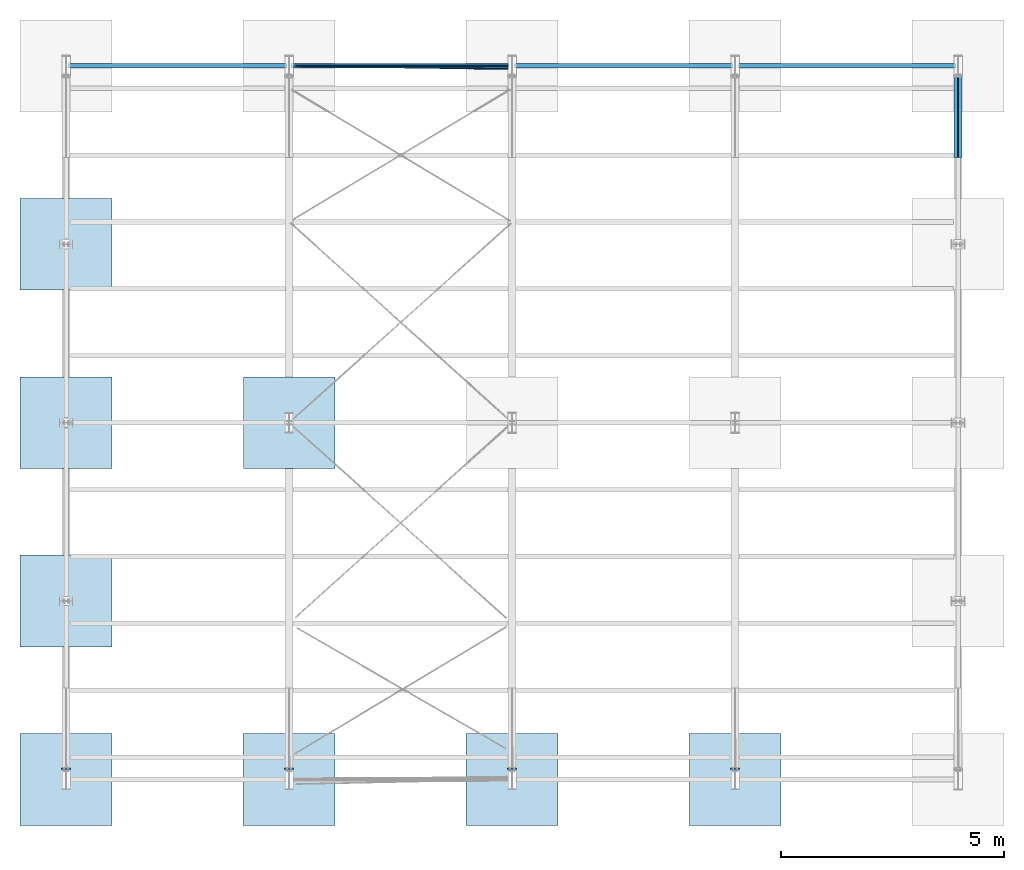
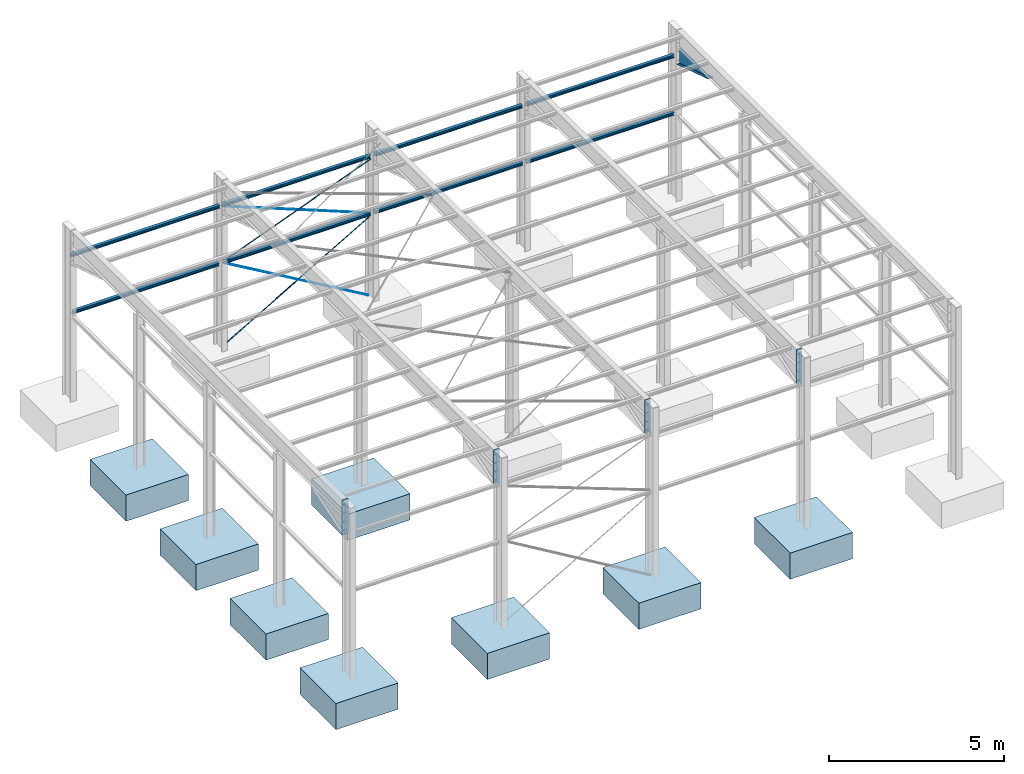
# Not in any storey, part 5 of 51: 8 beams, 8 slabs, 5 members, 4 plates, 33 openings.
"""IFC4 model written with IfcOpenShell, lengths in feet."""

from ifc_helpers import new_model, entity, si_unit, converted_unit, direction, frame, origin, origin_with_axes, origin_2d, origin_2d_with_axis, place, context, subcontext, project, spatial, polyline, indexed_curve, circle, i_section, outline, extrude, clip, halfspace, material, layer, layer_set, type_object, element, save


model = new_model("IFC4")

# Units and contexts
model_context = context("Model", 3, precision=0.0001, world=origin(), true_north=direction((6.123233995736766e-17, 1.0)))
body_context = subcontext(model_context, "Body", "Model", "MODEL_VIEW")
ifc_project = project(units=[converted_unit("LENGTHUNIT", "FOOT", entity("IfcLengthMeasure", 0.3048), si_unit("LENGTHUNIT", "METRE"), dimensions=[1, 0, 0, 0, 0, 0, 0]), converted_unit("AREAUNIT", "SQUARE INCH", entity("IfcAreaMeasure", 0.0006451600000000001), si_unit("AREAUNIT", "SQUARE_METRE"), dimensions=[2, 0, 0, 0, 0, 0, 0]), converted_unit("PLANEANGLEUNIT", "DEGREE", entity("IfcPlaneAngleMeasure", 0.017453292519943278), si_unit("PLANEANGLEUNIT", "RADIAN"), dimensions=[0, 0, 0, 0, 0, 0, 0]), si_unit("VOLUMEUNIT", "CUBIC_METRE")], contexts=[model_context])

# Site
site_placement = place(None, origin())
site = spatial("IfcSite", under=ifc_project, at=site_placement, Name="Default", CompositionType="ELEMENT")

# Beams
ifc_material_1 = material(Name="Steel ASTM A992", Category="Metal")
beam_type = type_object("IfcBeamType", Name="W Shapes:W4X13", PredefinedType="BEAM")
beam_1_placement = place(site_placement, frame((76.70386799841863, 57.94845552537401, 9.669186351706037), z_axis=(1.0, 0.0, 0.0), x_axis=(0.0, 1.0, 0.0)))
element("IfcBeam", 1, at=beam_1_placement, inside=site, type_object=beam_type, material=ifc_material_1, Name="W Shapes:W4X13", ObjectType="W4X13", context=model_context, shape_type="SweptSolid", body=[
    extrude(i_section(OverallWidth=0.3383333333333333, OverallDepth=0.3466666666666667, WebThickness=0.023333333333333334, FlangeThickness=0.028749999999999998, FilletRadius=0.020833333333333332, at=origin_2d()), origin(), (0.0, 0.0, -1.0), 16.0),
])
beam_2_placement = place(site_placement, frame((60.320501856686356, 57.94845552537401, 9.669186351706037), z_axis=(1.0, 0.0, 0.0), x_axis=(0.0, 1.0, 0.0)))
element("IfcBeam", 2, at=beam_2_placement, inside=site, type_object=beam_type, material=ifc_material_1, Name="W Shapes:W4X13", ObjectType="W4X13", context=model_context, shape_type="SweptSolid", body=[
    extrude(i_section(OverallWidth=0.3383333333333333, OverallDepth=0.3466666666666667, WebThickness=0.023333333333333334, FlangeThickness=0.028749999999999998, FilletRadius=0.020833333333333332, at=origin_2d()), origin(), (0.0, 0.0, -1.0), 16.083333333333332),
])
beam_3_placement = place(site_placement, frame((43.85380238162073, 57.94845552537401, 9.669186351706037), z_axis=(1.0, 0.0, 0.0), x_axis=(0.0, 1.0, 0.0)))
element("IfcBeam", 3, at=beam_3_placement, inside=site, type_object=beam_type, material=ifc_material_1, Name="W Shapes:W4X13", ObjectType="W4X13", context=model_context, shape_type="SweptSolid", body=[
    extrude(i_section(OverallWidth=0.3383333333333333, OverallDepth=0.3466666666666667, WebThickness=0.023333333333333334, FlangeThickness=0.028749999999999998, FilletRadius=0.020833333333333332, at=origin_2d()), origin(), (0.0, 0.0, -1.0), 15.9375),
])
beam_4_placement = place(site_placement, frame((27.40793623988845, 57.94845552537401, 9.669186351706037), z_axis=(1.0, 0.0, 0.0), x_axis=(0.0, 1.0, 0.0)))
element("IfcBeam", 4, at=beam_4_placement, inside=site, type_object=beam_type, material=ifc_material_1, Name="W Shapes:W4X13", ObjectType="W4X13", context=model_context, shape_type="SweptSolid", body=[
    extrude(i_section(OverallWidth=0.3383333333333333, OverallDepth=0.3466666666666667, WebThickness=0.023333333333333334, FlangeThickness=0.028749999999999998, FilletRadius=0.020833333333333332, at=origin_2d()), origin(), (0.0, 0.0, -1.0), 15.854166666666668),
])
beam_5_placement = place(site_placement, frame((76.7144583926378, 57.94845552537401, 16.261706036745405), z_axis=(1.0, 0.0, 0.0), x_axis=(0.0, 1.0, 0.0)))
element("IfcBeam", 5, at=beam_5_placement, inside=site, type_object=beam_type, material=ifc_material_1, Name="W Shapes:W4X13", ObjectType="W4X13", context=model_context, shape_type="SweptSolid", body=[
    extrude(i_section(OverallWidth=0.3383333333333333, OverallDepth=0.3466666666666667, WebThickness=0.023333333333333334, FlangeThickness=0.028749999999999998, FilletRadius=0.020833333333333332, at=origin_2d()), origin(), (0.0, 0.0, -1.0), 16.03286390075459),
])
beam_6_placement = place(site_placement, frame((60.28941648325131, 57.94845552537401, 16.261706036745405), z_axis=(1.0, 0.0, 0.0), x_axis=(0.0, 1.0, 0.0)))
element("IfcBeam", 6, at=beam_6_placement, inside=site, type_object=beam_type, material=ifc_material_1, Name="W Shapes:W4X13", ObjectType="W4X13", context=model_context, shape_type="SweptSolid", body=[
    extrude(i_section(OverallWidth=0.3383333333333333, OverallDepth=0.3466666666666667, WebThickness=0.023333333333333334, FlangeThickness=0.028749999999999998, FilletRadius=0.020833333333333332, at=origin_2d()), origin(), (0.0, 0.0, -1.0), 15.969487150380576),
])
beam_7_placement = place(site_placement, frame((43.825019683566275, 57.94845552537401, 16.261706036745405), z_axis=(1.0, 0.0, 0.0), x_axis=(0.0, 1.0, 0.0)))
element("IfcBeam", 7, at=beam_7_placement, inside=site, type_object=beam_type, material=ifc_material_1, Name="W Shapes:W4X13", ObjectType="W4X13", context=model_context, shape_type="SweptSolid", body=[
    extrude(i_section(OverallWidth=0.3383333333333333, OverallDepth=0.3466666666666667, WebThickness=0.023333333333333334, FlangeThickness=0.028749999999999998, FilletRadius=0.020833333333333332, at=origin_2d()), origin(), (0.0, 0.0, -1.0), 16.01612478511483),
])
beam_8_placement = place(site_placement, frame((27.494150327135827, 57.94845552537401, 16.261706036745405), z_axis=(1.0, 0.0, 0.0), x_axis=(0.0, 1.0, 0.0)))
element("IfcBeam", 8, at=beam_8_placement, inside=site, type_object=beam_type, material=ifc_material_1, Name="W Shapes:W4X13", ObjectType="W4X13", context=model_context, shape_type="SweptSolid", body=[
    extrude(i_section(OverallWidth=0.3383333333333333, OverallDepth=0.3466666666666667, WebThickness=0.023333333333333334, FlangeThickness=0.028749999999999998, FilletRadius=0.020833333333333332, at=origin_2d()), origin(), (0.0, 0.0, -1.0), 16.08591986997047),
])

# Members
ifc_material_2 = material(Name="Steel ASTM A36", Category="Metal")
member_type_1 = type_object("IfcMemberType", Name="Round Bars:RB 1", PredefinedType="MEMBER", material=ifc_material_2)
member_1_placement = place(site_placement, frame((28.282674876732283, 57.94845552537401, 0.3193730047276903), z_axis=(-0.86395085, 0.0, -0.50357614), x_axis=(0.0, -1.0, 0.0)))
element("IfcMember", 9, at=member_1_placement, inside=site, type_object=member_type_1, material=ifc_material_2, Name="Round Bars:RB 1", ObjectType="RB 1", context=model_context, shape_type="SweptSolid", body=[
    extrude(circle(Radius=0.041666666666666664, at=origin_2d()), origin(), (0.0, 0.0, -1.0), 17.916666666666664),
])
member_type_2 = type_object("IfcMemberType", Name="Round Bars:RB 1", PredefinedType="MEMBER", material=ifc_material_2)
member_2_placement = place(site_placement, frame((43.61482597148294, 57.96141133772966, 0.37911119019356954), z_axis=(0.862578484, 0.0, -0.505923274), x_axis=(0.0, 1.0, 0.0)))
element("IfcMember", 10, at=member_2_placement, inside=site, type_object=member_type_2, material=ifc_material_2, Name="Round Bars:RB 1", ObjectType="RB 1", context=model_context, shape_type="SweptSolid", body=[
    extrude(circle(Radius=0.041666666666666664, at=origin_2d()), origin(), (0.0, 0.0, -1.0), 17.829152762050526),
])
member_type_3 = type_object("IfcMemberType", Name="Round Bars:RB 1", PredefinedType="MEMBER", material=ifc_material_2)
member_3_placement = place(site_placement, frame((43.53051832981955, 57.94845552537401, 9.84251968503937), z_axis=(-0.928823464, 0.0, 0.370522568), x_axis=(0.0, -1.0, 0.0)))
element("IfcMember", 11, at=member_3_placement, inside=site, type_object=member_type_3, material=ifc_material_2, Name="Round Bars:RB 1", ObjectType="RB 1", context=model_context, shape_type="SweptSolid", body=[
    extrude(circle(Radius=0.041666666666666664, at=origin_2d()), origin(), (0.0, 0.0, 1.0), 16.677487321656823),
])
member_type_4 = type_object("IfcMemberType", Name="Round Bars:RB 1", PredefinedType="MEMBER", material=ifc_material_2)
member_4_placement = place(site_placement, frame((28.18565454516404, 57.94845552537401, 9.84251968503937), z_axis=(0.928837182, -0.013322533, 0.370248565), x_axis=(0.014341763, 0.999897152, 0.0)))
element("IfcMember", 12, at=member_4_placement, inside=site, type_object=member_type_4, material=ifc_material_2, Name="Round Bars:RB 1", ObjectType="RB 1", context=model_context, shape_type="SweptSolid", body=[
    extrude(circle(Radius=0.041666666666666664, at=origin_2d()), origin(), (0.0, 0.0, 1.0), 16.76105546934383),
])

# Member, opening
member_5_placement = place(site_placement, frame((76.87053466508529, 60.40785938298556, 15.74704584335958), z_axis=(0.0, 0.952577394, -0.304296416), x_axis=(-1.0, 0.0, 0.0)))
member_5 = element("IfcMember", 13, at=member_5_placement, inside=site, Name="Haunch", ObjectType="Haunch", context=model_context, shape_type="Clipping", body=[
    clip(clip(clip(extrude(i_section(OverallWidth=0.5841666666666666, OverallDepth=1.9666666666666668, WebThickness=0.032916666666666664, FlangeThickness=0.042083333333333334, FilletRadius=0.042083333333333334, at=origin_2d()), origin(), (0.0, 0.0, -1.0), 19.390601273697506), halfspace(frame((76.87053466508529, -16.00192954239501, 1.6561795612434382), z_axis=(0.0, -0.304296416, -0.952577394), x_axis=(-1.0, 0.0, 0.0)), True)), halfspace(frame((76.87053466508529, -16.50405684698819, -58.14302795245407), z_axis=(0.0, -0.952577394, 0.304296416), x_axis=(1.0, 0.0, 0.0)), True)), halfspace(frame((76.87053466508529, -17.79895362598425, -3.96927123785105), z_axis=(0.0, 0.304296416, 0.952577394), x_axis=(1.0, 0.0, 0.0)), True)),
])
opening_1_placement = place(member_5_placement, frame((0.6204954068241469, -0.9833333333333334, -3.141437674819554), z_axis=(-1.0, 0.0, 0.0), x_axis=(0.0, 0.304296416, 0.952577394)))
element("IfcOpeningElement", 14, at=opening_1_placement, cuts=member_5, ObjectType="Opening", context=model_context, shape_type="SweptSolid", body=[
    extrude(outline(polyline([(3.2808398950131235e-06, 1.9521030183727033), (-0.0625079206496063, 1.9521030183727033), (3.2808398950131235e-06, 1.889591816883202), (3.2808398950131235e-06, 1.9521030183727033)])), origin(), (0.0, 0.0, 1.0), 1.2409908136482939),
])

# Slabs
ifc_material_3 = material(Name="Concrete, Cast-in-Place gray", Category="Concrete")
slab_type = type_object("IfcSlabType", Name="Pile Cap-Rectangular:81\" x 81\" x 36\"", PredefinedType="BASESLAB", material=ifc_material_3)
slab_1_placement = place(site_placement, origin())
element("IfcSlab", 15, at=slab_1_placement, inside=site, type_object=slab_type, Name="Pile Cap-Rectangular:81\" x 81\" x 36\"", ObjectType="Pile Cap-Rectangular:81\" x 81\" x 36\"", PredefinedType="BASESLAB", context=body_context, shape_type="SweptSolid", body=[
    extrude(outline(indexed_curve([(-3.375, -3.375), (3.375, -3.375), (3.375, 3.374999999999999), (-3.375, 3.374999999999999), (-3.375, -3.375)], self_intersect=False)), frame((60.4663351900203, 5.455017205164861, -3.0), z_axis=(0.0, 0.0, 1.0), x_axis=(-1.0, 0.0, 0.0)), (0.0, 0.0, 1.0), 3.0),
])
slab_2_placement = place(site_placement, origin())
element("IfcSlab", 16, at=slab_2_placement, inside=site, type_object=slab_type, Name="Pile Cap-Rectangular:81\" x 81\" x 36\"", ObjectType="Pile Cap-Rectangular:81\" x 81\" x 36\"", PredefinedType="BASESLAB", context=body_context, shape_type="SweptSolid", body=[
    extrude(outline(indexed_curve([(-3.375, -3.375), (3.375, -3.375), (3.375, 3.374999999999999), (-3.375, 3.374999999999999), (-3.375, -3.375)], self_intersect=False)), frame((44.062135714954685, 5.455017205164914, -3.0), z_axis=(0.0, 0.0, 1.0), x_axis=(-1.0, 0.0, 0.0)), (0.0, 0.0, 1.0), 3.0),
])
slab_3_placement = place(site_placement, origin())
element("IfcSlab", 17, at=slab_3_placement, inside=site, type_object=slab_type, Name="Pile Cap-Rectangular:81\" x 81\" x 36\"", ObjectType="Pile Cap-Rectangular:81\" x 81\" x 36\"", PredefinedType="BASESLAB", context=body_context, shape_type="SweptSolid", body=[
    extrude(outline(indexed_curve([(-3.375, -3.375), (3.375, -3.375), (3.375, 3.374999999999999), (-3.375, 3.374999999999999), (-3.375, -3.375)], self_intersect=False)), frame((27.657936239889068, 5.4550172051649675, -3.0), z_axis=(0.0, 0.0, 1.0), x_axis=(-1.0, 0.0, 0.0)), (0.0, 0.0, 1.0), 3.0),
])
slab_4_placement = place(site_placement, origin())
element("IfcSlab", 18, at=slab_4_placement, inside=site, type_object=slab_type, Name="Pile Cap-Rectangular:81\" x 81\" x 36\"", ObjectType="Pile Cap-Rectangular:81\" x 81\" x 36\"", PredefinedType="BASESLAB", context=body_context, shape_type="SweptSolid", body=[
    extrude(outline(indexed_curve([(-3.375, -3.375), (3.375, -3.375), (3.375, 3.374999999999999), (-3.375, 3.374999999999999), (-3.375, -3.375)], self_intersect=False)), frame((11.25373676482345, 5.455017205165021, -3.0), z_axis=(0.0, 0.0, 1.0), x_axis=(-1.0, 0.0, 0.0)), (0.0, 0.0, 1.0), 3.0),
])
slab_5_placement = place(site_placement, origin())
element("IfcSlab", 19, at=slab_5_placement, inside=site, type_object=slab_type, Name="Pile Cap-Rectangular:81\" x 81\" x 36\"", ObjectType="Pile Cap-Rectangular:81\" x 81\" x 36\"", PredefinedType="BASESLAB", context=body_context, shape_type="SweptSolid", body=[
    extrude(outline(indexed_curve([(-3.375, -3.375), (3.375, -3.375), (3.375, 3.375), (-3.375, 3.375), (-3.375, -3.375)], self_intersect=False)), frame((11.253736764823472, 18.578376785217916, -3.0), z_axis=(0.0, 0.0, 1.0), x_axis=(-1.0, 0.0, 0.0)), (0.0, 0.0, 1.0), 3.0),
])
slab_6_placement = place(site_placement, origin())
element("IfcSlab", 20, at=slab_6_placement, inside=site, type_object=slab_type, Name="Pile Cap-Rectangular:81\" x 81\" x 36\"", ObjectType="Pile Cap-Rectangular:81\" x 81\" x 36\"", PredefinedType="BASESLAB", context=body_context, shape_type="SweptSolid", body=[
    extrude(outline(indexed_curve([(-3.375, -3.375), (3.375, -3.375), (3.375, 3.375), (-3.375, 3.375), (-3.375, -3.375)], self_intersect=False)), frame((11.253736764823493, 31.701736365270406, -3.0), z_axis=(0.0, 0.0, 1.0), x_axis=(-1.0, 0.0, 0.0)), (0.0, 0.0, 1.0), 3.0),
])
slab_7_placement = place(site_placement, origin())
element("IfcSlab", 21, at=slab_7_placement, inside=site, type_object=slab_type, Name="Pile Cap-Rectangular:81\" x 81\" x 36\"", ObjectType="Pile Cap-Rectangular:81\" x 81\" x 36\"", PredefinedType="BASESLAB", context=body_context, shape_type="SweptSolid", body=[
    extrude(outline(indexed_curve([(-3.375, -3.375), (3.375, -3.375), (3.375, 3.375), (-3.375, 3.375), (-3.375, -3.375)], self_intersect=False)), frame((11.253736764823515, 44.8250959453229, -3.0), z_axis=(0.0, 0.0, 1.0), x_axis=(-1.0, 0.0, 0.0)), (0.0, 0.0, 1.0), 3.0),
])
slab_8_placement = place(site_placement, origin())
element("IfcSlab", 22, at=slab_8_placement, inside=site, type_object=slab_type, Name="Pile Cap-Rectangular:81\" x 81\" x 36\"", ObjectType="Pile Cap-Rectangular:81\" x 81\" x 36\"", PredefinedType="BASESLAB", context=body_context, shape_type="SweptSolid", body=[
    extrude(outline(indexed_curve([(-3.375, -3.375), (3.375, -3.375), (3.375, 3.375), (-3.375, 3.375), (-3.375, -3.375)], self_intersect=False)), frame((27.673356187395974, 31.701736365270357, -3.0), z_axis=(0.0, 0.0, 1.0), x_axis=(-1.0, 0.0, 0.0)), (0.0, 0.0, 1.0), 3.0),
])

# Plate, openings
ifc_material_4 = material(Name="Dachdeckung - Blechdach")
ifc_layer = layer(ifc_material_4, 20.0)
ifc_layer_set = layer_set([ifc_layer], Name="Dachdeckung - Blechdach")
plate_1_placement = place(site_placement, frame((11.562224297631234, 6.28730066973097, 19.668635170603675), z_axis=(0.0, -1.0, 0.0), x_axis=(-1.0, 0.0, 0.0)))
plate_1 = element("IfcPlate", 23, at=plate_1_placement, inside=site, material=ifc_layer_set, Name="Endplate", ObjectType="Endplate", context=model_context, shape_type="SweptSolid", body=[
    extrude(outline(polyline([(0.0, 0.0), (0.6169750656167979, 0.0), (0.6169750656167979, 3.918766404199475), (0.0, 3.918766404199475), (0.0, 0.0)])), origin_with_axes(), (0.0, 0.0, 1.0), 0.06561679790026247),
])
opening_2_placement = place(plate_1_placement, frame((0.4543208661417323, 2.4606299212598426, 0.06725721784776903), z_axis=(0.0, 0.0, -1.0), x_axis=(1.0, 0.0, 0.0)))
element("IfcOpeningElement", 24, at=opening_2_placement, cuts=plate_1, ObjectType="Opening", context=model_context, shape_type="SweptSolid", body=[
    extrude(circle(Radius=0.03385744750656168, at=origin_2d_with_axis()), origin(), (0.0, 0.0, 1.0), 0.0688976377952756),
])
opening_3_placement = place(plate_1_placement, frame((0.4543208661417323, 3.444881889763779, 0.06725721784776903), z_axis=(0.0, 0.0, -1.0), x_axis=(1.0, 0.0, 0.0)))
element("IfcOpeningElement", 25, at=opening_3_placement, cuts=plate_1, ObjectType="Opening", context=model_context, shape_type="SweptSolid", body=[
    extrude(circle(Radius=0.03385744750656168, at=origin_2d_with_axis()), origin(), (0.0, 0.0, 1.0), 0.0688976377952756),
])
opening_4_placement = place(plate_1_placement, frame((0.4543208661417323, 1.4763779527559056, 0.06725721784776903), z_axis=(0.0, 0.0, -1.0), x_axis=(1.0, 0.0, 0.0)))
element("IfcOpeningElement", 26, at=opening_4_placement, cuts=plate_1, ObjectType="Opening", context=model_context, shape_type="SweptSolid", body=[
    extrude(circle(Radius=0.03385744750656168, at=origin_2d_with_axis()), origin(), (0.0, 0.0, 1.0), 0.0688976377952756),
])
opening_5_placement = place(plate_1_placement, frame((0.1626541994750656, 2.4606299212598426, 0.06725721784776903), z_axis=(0.0, 0.0, -1.0), x_axis=(1.0, 0.0, 0.0)))
element("IfcOpeningElement", 27, at=opening_5_placement, cuts=plate_1, ObjectType="Opening", context=model_context, shape_type="SweptSolid", body=[
    extrude(circle(Radius=0.03385744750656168, at=origin_2d_with_axis()), origin(), (0.0, 0.0, 1.0), 0.0688976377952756),
])
opening_6_placement = place(plate_1_placement, frame((0.4543208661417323, 0.49212598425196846, 0.06725721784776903), z_axis=(0.0, 0.0, -1.0), x_axis=(1.0, 0.0, 0.0)))
element("IfcOpeningElement", 28, at=opening_6_placement, cuts=plate_1, ObjectType="Opening", context=model_context, shape_type="SweptSolid", body=[
    extrude(circle(Radius=0.03385744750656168, at=origin_2d_with_axis()), origin(), (0.0, 0.0, 1.0), 0.0688976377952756),
])
opening_7_placement = place(plate_1_placement, frame((0.1626541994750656, 3.444881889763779, 0.06725721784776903), z_axis=(0.0, 0.0, -1.0), x_axis=(1.0, 0.0, 0.0)))
element("IfcOpeningElement", 29, at=opening_7_placement, cuts=plate_1, ObjectType="Opening", context=model_context, shape_type="SweptSolid", body=[
    extrude(circle(Radius=0.03385744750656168, at=origin_2d_with_axis()), origin(), (0.0, 0.0, 1.0), 0.0688976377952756),
])
opening_8_placement = place(plate_1_placement, frame((0.1626541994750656, 1.4763779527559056, 0.06725721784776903), z_axis=(0.0, 0.0, -1.0), x_axis=(1.0, 0.0, 0.0)))
element("IfcOpeningElement", 30, at=opening_8_placement, cuts=plate_1, ObjectType="Opening", context=model_context, shape_type="SweptSolid", body=[
    extrude(circle(Radius=0.03385744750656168, at=origin_2d_with_axis()), origin(), (0.0, 0.0, 1.0), 0.0688976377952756),
])
opening_9_placement = place(plate_1_placement, frame((0.1626541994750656, 0.49212598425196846, 0.06725721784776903), z_axis=(0.0, 0.0, -1.0), x_axis=(1.0, 0.0, 0.0)))
element("IfcOpeningElement", 31, at=opening_9_placement, cuts=plate_1, ObjectType="Opening", context=model_context, shape_type="SweptSolid", body=[
    extrude(circle(Radius=0.03385744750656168, at=origin_2d_with_axis()), origin(), (0.0, 0.0, 1.0), 0.0688976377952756),
])

plate_2_placement = place(site_placement, frame((27.96642377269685, 6.28730066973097, 19.668635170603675), z_axis=(0.0, -1.0, 0.0), x_axis=(-1.0, 0.0, 0.0)))
plate_2 = element("IfcPlate", 32, at=plate_2_placement, inside=site, material=ifc_layer_set, Name="Endplate", ObjectType="Endplate", context=model_context, shape_type="SweptSolid", body=[
    extrude(outline(polyline([(0.0, 0.0), (0.6169750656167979, 0.0), (0.6169750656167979, 3.918766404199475), (0.0, 3.918766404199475), (0.0, 0.0)])), origin_with_axes(), (0.0, 0.0, 1.0), 0.06561679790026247),
])
opening_10_placement = place(plate_2_placement, frame((0.1626541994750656, 2.4606299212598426, 0.06725721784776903), z_axis=(0.0, 0.0, -1.0), x_axis=(1.0, 0.0, 0.0)))
element("IfcOpeningElement", 33, at=opening_10_placement, cuts=plate_2, ObjectType="Opening", context=model_context, shape_type="SweptSolid", body=[
    extrude(circle(Radius=0.03385744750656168, at=origin_2d_with_axis()), origin(), (0.0, 0.0, 1.0), 0.0688976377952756),
])
opening_11_placement = place(plate_2_placement, frame((0.1626541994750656, 0.49212598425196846, 0.06725721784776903), z_axis=(0.0, 0.0, -1.0), x_axis=(1.0, 0.0, 0.0)))
element("IfcOpeningElement", 34, at=opening_11_placement, cuts=plate_2, ObjectType="Opening", context=model_context, shape_type="SweptSolid", body=[
    extrude(circle(Radius=0.03385744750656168, at=origin_2d_with_axis()), origin(), (0.0, 0.0, 1.0), 0.0688976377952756),
])
opening_12_placement = place(plate_2_placement, frame((0.4543208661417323, 2.4606299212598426, 0.06725721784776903), z_axis=(0.0, 0.0, -1.0), x_axis=(1.0, 0.0, 0.0)))
element("IfcOpeningElement", 35, at=opening_12_placement, cuts=plate_2, ObjectType="Opening", context=model_context, shape_type="SweptSolid", body=[
    extrude(circle(Radius=0.03385744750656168, at=origin_2d_with_axis()), origin(), (0.0, 0.0, 1.0), 0.0688976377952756),
])
opening_13_placement = place(plate_2_placement, frame((0.1626541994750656, 3.444881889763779, 0.06725721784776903), z_axis=(0.0, 0.0, -1.0), x_axis=(1.0, 0.0, 0.0)))
element("IfcOpeningElement", 36, at=opening_13_placement, cuts=plate_2, ObjectType="Opening", context=model_context, shape_type="SweptSolid", body=[
    extrude(circle(Radius=0.03385744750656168, at=origin_2d_with_axis()), origin(), (0.0, 0.0, 1.0), 0.0688976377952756),
])
opening_14_placement = place(plate_2_placement, frame((0.4543208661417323, 1.4763779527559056, 0.06725721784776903), z_axis=(0.0, 0.0, -1.0), x_axis=(1.0, 0.0, 0.0)))
element("IfcOpeningElement", 37, at=opening_14_placement, cuts=plate_2, ObjectType="Opening", context=model_context, shape_type="SweptSolid", body=[
    extrude(circle(Radius=0.03385744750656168, at=origin_2d_with_axis()), origin(), (0.0, 0.0, 1.0), 0.0688976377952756),
])
opening_15_placement = place(plate_2_placement, frame((0.4543208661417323, 0.49212598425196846, 0.06725721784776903), z_axis=(0.0, 0.0, -1.0), x_axis=(1.0, 0.0, 0.0)))
element("IfcOpeningElement", 38, at=opening_15_placement, cuts=plate_2, ObjectType="Opening", context=model_context, shape_type="SweptSolid", body=[
    extrude(circle(Radius=0.03385744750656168, at=origin_2d_with_axis()), origin(), (0.0, 0.0, 1.0), 0.0688976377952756),
])
opening_16_placement = place(plate_2_placement, frame((0.1626541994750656, 1.4763779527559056, 0.06725721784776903), z_axis=(0.0, 0.0, -1.0), x_axis=(1.0, 0.0, 0.0)))
element("IfcOpeningElement", 39, at=opening_16_placement, cuts=plate_2, ObjectType="Opening", context=model_context, shape_type="SweptSolid", body=[
    extrude(circle(Radius=0.03385744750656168, at=origin_2d_with_axis()), origin(), (0.0, 0.0, 1.0), 0.0688976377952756),
])
opening_17_placement = place(plate_2_placement, frame((0.4543208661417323, 3.444881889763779, 0.06725721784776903), z_axis=(0.0, 0.0, -1.0), x_axis=(1.0, 0.0, 0.0)))
element("IfcOpeningElement", 40, at=opening_17_placement, cuts=plate_2, ObjectType="Opening", context=model_context, shape_type="SweptSolid", body=[
    extrude(circle(Radius=0.03385744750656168, at=origin_2d_with_axis()), origin(), (0.0, 0.0, 1.0), 0.0688976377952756),
])

plate_3_placement = place(site_placement, frame((44.37062324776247, 6.28730066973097, 19.668635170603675), z_axis=(0.0, -1.0, 0.0), x_axis=(-1.0, 0.0, 0.0)))
plate_3 = element("IfcPlate", 41, at=plate_3_placement, inside=site, material=ifc_layer_set, Name="Endplate", ObjectType="Endplate", context=model_context, shape_type="SweptSolid", body=[
    extrude(outline(polyline([(0.0, 0.0), (0.6169750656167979, 0.0), (0.6169750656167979, 3.918766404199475), (0.0, 3.918766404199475), (0.0, 0.0)])), origin_with_axes(), (0.0, 0.0, 1.0), 0.06561679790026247),
])
opening_18_placement = place(plate_3_placement, frame((0.4543208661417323, 0.49212598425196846, 0.06725721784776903), z_axis=(0.0, 0.0, -1.0), x_axis=(1.0, 0.0, 0.0)))
element("IfcOpeningElement", 42, at=opening_18_placement, cuts=plate_3, ObjectType="Opening", context=model_context, shape_type="SweptSolid", body=[
    extrude(circle(Radius=0.03385744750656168, at=origin_2d_with_axis()), origin(), (0.0, 0.0, 1.0), 0.0688976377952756),
])
opening_19_placement = place(plate_3_placement, frame((0.1626541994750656, 2.4606299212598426, 0.06725721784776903), z_axis=(0.0, 0.0, -1.0), x_axis=(1.0, 0.0, 0.0)))
element("IfcOpeningElement", 43, at=opening_19_placement, cuts=plate_3, ObjectType="Opening", context=model_context, shape_type="SweptSolid", body=[
    extrude(circle(Radius=0.03385744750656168, at=origin_2d_with_axis()), origin(), (0.0, 0.0, 1.0), 0.0688976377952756),
])
opening_20_placement = place(plate_3_placement, frame((0.1626541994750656, 1.4763779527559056, 0.06725721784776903), z_axis=(0.0, 0.0, -1.0), x_axis=(1.0, 0.0, 0.0)))
element("IfcOpeningElement", 44, at=opening_20_placement, cuts=plate_3, ObjectType="Opening", context=model_context, shape_type="SweptSolid", body=[
    extrude(circle(Radius=0.03385744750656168, at=origin_2d_with_axis()), origin(), (0.0, 0.0, 1.0), 0.0688976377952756),
])
opening_21_placement = place(plate_3_placement, frame((0.1626541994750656, 3.444881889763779, 0.06725721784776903), z_axis=(0.0, 0.0, -1.0), x_axis=(1.0, 0.0, 0.0)))
element("IfcOpeningElement", 45, at=opening_21_placement, cuts=plate_3, ObjectType="Opening", context=model_context, shape_type="SweptSolid", body=[
    extrude(circle(Radius=0.03385744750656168, at=origin_2d_with_axis()), origin(), (0.0, 0.0, 1.0), 0.0688976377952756),
])
opening_22_placement = place(plate_3_placement, frame((0.4543208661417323, 2.4606299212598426, 0.06725721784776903), z_axis=(0.0, 0.0, -1.0), x_axis=(1.0, 0.0, 0.0)))
element("IfcOpeningElement", 46, at=opening_22_placement, cuts=plate_3, ObjectType="Opening", context=model_context, shape_type="SweptSolid", body=[
    extrude(circle(Radius=0.03385744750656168, at=origin_2d_with_axis()), origin(), (0.0, 0.0, 1.0), 0.0688976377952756),
])
opening_23_placement = place(plate_3_placement, frame((0.1626541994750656, 0.49212598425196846, 0.06725721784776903), z_axis=(0.0, 0.0, -1.0), x_axis=(1.0, 0.0, 0.0)))
element("IfcOpeningElement", 47, at=opening_23_placement, cuts=plate_3, ObjectType="Opening", context=model_context, shape_type="SweptSolid", body=[
    extrude(circle(Radius=0.03385744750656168, at=origin_2d_with_axis()), origin(), (0.0, 0.0, 1.0), 0.0688976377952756),
])
opening_24_placement = place(plate_3_placement, frame((0.4543208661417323, 3.444881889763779, 0.06725721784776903), z_axis=(0.0, 0.0, -1.0), x_axis=(1.0, 0.0, 0.0)))
element("IfcOpeningElement", 48, at=opening_24_placement, cuts=plate_3, ObjectType="Opening", context=model_context, shape_type="SweptSolid", body=[
    extrude(circle(Radius=0.03385744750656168, at=origin_2d_with_axis()), origin(), (0.0, 0.0, 1.0), 0.0688976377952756),
])
opening_25_placement = place(plate_3_placement, frame((0.4543208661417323, 1.4763779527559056, 0.06725721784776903), z_axis=(0.0, 0.0, -1.0), x_axis=(1.0, 0.0, 0.0)))
element("IfcOpeningElement", 49, at=opening_25_placement, cuts=plate_3, ObjectType="Opening", context=model_context, shape_type="SweptSolid", body=[
    extrude(circle(Radius=0.03385744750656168, at=origin_2d_with_axis()), origin(), (0.0, 0.0, 1.0), 0.0688976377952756),
])

plate_4_placement = place(site_placement, frame((60.774822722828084, 6.28730066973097, 19.668635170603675), z_axis=(0.0, -1.0, 0.0), x_axis=(-1.0, 0.0, 0.0)))
plate_4 = element("IfcPlate", 50, at=plate_4_placement, inside=site, material=ifc_layer_set, Name="Endplate", ObjectType="Endplate", context=model_context, shape_type="SweptSolid", body=[
    extrude(outline(polyline([(0.0, 0.0), (0.6169750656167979, 0.0), (0.6169750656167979, 3.918766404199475), (0.0, 3.918766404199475), (0.0, 0.0)])), origin_with_axes(), (0.0, 0.0, 1.0), 0.06561679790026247),
])
opening_26_placement = place(plate_4_placement, frame((0.4543208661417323, 0.49212598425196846, 0.06725721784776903), z_axis=(0.0, 0.0, -1.0), x_axis=(1.0, 0.0, 0.0)))
element("IfcOpeningElement", 51, at=opening_26_placement, cuts=plate_4, ObjectType="Opening", context=model_context, shape_type="SweptSolid", body=[
    extrude(circle(Radius=0.03385744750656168, at=origin_2d_with_axis()), origin(), (0.0, 0.0, 1.0), 0.0688976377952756),
])
opening_27_placement = place(plate_4_placement, frame((0.1626541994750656, 0.49212598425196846, 0.06725721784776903), z_axis=(0.0, 0.0, -1.0), x_axis=(1.0, 0.0, 0.0)))
element("IfcOpeningElement", 52, at=opening_27_placement, cuts=plate_4, ObjectType="Opening", context=model_context, shape_type="SweptSolid", body=[
    extrude(circle(Radius=0.03385744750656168, at=origin_2d_with_axis()), origin(), (0.0, 0.0, 1.0), 0.0688976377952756),
])
opening_28_placement = place(plate_4_placement, frame((0.4543208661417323, 2.4606299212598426, 0.06725721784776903), z_axis=(0.0, 0.0, -1.0), x_axis=(1.0, 0.0, 0.0)))
element("IfcOpeningElement", 53, at=opening_28_placement, cuts=plate_4, ObjectType="Opening", context=model_context, shape_type="SweptSolid", body=[
    extrude(circle(Radius=0.03385744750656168, at=origin_2d_with_axis()), origin(), (0.0, 0.0, 1.0), 0.0688976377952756),
])
opening_29_placement = place(plate_4_placement, frame((0.4543208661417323, 3.444881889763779, 0.06725721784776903), z_axis=(0.0, 0.0, -1.0), x_axis=(1.0, 0.0, 0.0)))
element("IfcOpeningElement", 54, at=opening_29_placement, cuts=plate_4, ObjectType="Opening", context=model_context, shape_type="SweptSolid", body=[
    extrude(circle(Radius=0.03385744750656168, at=origin_2d_with_axis()), origin(), (0.0, 0.0, 1.0), 0.0688976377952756),
])
opening_30_placement = place(plate_4_placement, frame((0.1626541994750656, 2.4606299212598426, 0.06725721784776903), z_axis=(0.0, 0.0, -1.0), x_axis=(1.0, 0.0, 0.0)))
element("IfcOpeningElement", 55, at=opening_30_placement, cuts=plate_4, ObjectType="Opening", context=model_context, shape_type="SweptSolid", body=[
    extrude(circle(Radius=0.03385744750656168, at=origin_2d_with_axis()), origin(), (0.0, 0.0, 1.0), 0.0688976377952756),
])
opening_31_placement = place(plate_4_placement, frame((0.1626541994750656, 3.444881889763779, 0.06725721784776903), z_axis=(0.0, 0.0, -1.0), x_axis=(1.0, 0.0, 0.0)))
element("IfcOpeningElement", 56, at=opening_31_placement, cuts=plate_4, ObjectType="Opening", context=model_context, shape_type="SweptSolid", body=[
    extrude(circle(Radius=0.03385744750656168, at=origin_2d_with_axis()), origin(), (0.0, 0.0, 1.0), 0.0688976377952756),
])
opening_32_placement = place(plate_4_placement, frame((0.4543208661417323, 1.4763779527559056, 0.06725721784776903), z_axis=(0.0, 0.0, -1.0), x_axis=(1.0, 0.0, 0.0)))
element("IfcOpeningElement", 57, at=opening_32_placement, cuts=plate_4, ObjectType="Opening", context=model_context, shape_type="SweptSolid", body=[
    extrude(circle(Radius=0.03385744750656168, at=origin_2d_with_axis()), origin(), (0.0, 0.0, 1.0), 0.0688976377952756),
])
opening_33_placement = place(plate_4_placement, frame((0.1626541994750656, 1.4763779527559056, 0.06725721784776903), z_axis=(0.0, 0.0, -1.0), x_axis=(1.0, 0.0, 0.0)))
element("IfcOpeningElement", 58, at=opening_33_placement, cuts=plate_4, ObjectType="Opening", context=model_context, shape_type="SweptSolid", body=[
    extrude(circle(Radius=0.03385744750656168, at=origin_2d_with_axis()), origin(), (0.0, 0.0, 1.0), 0.0688976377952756),
])

save(model, "model.ifc")
